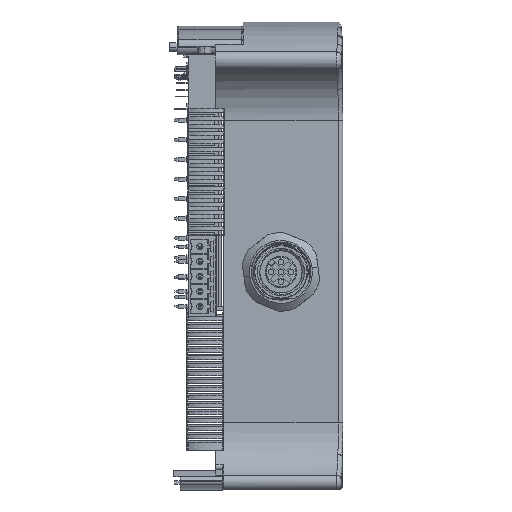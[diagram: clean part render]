
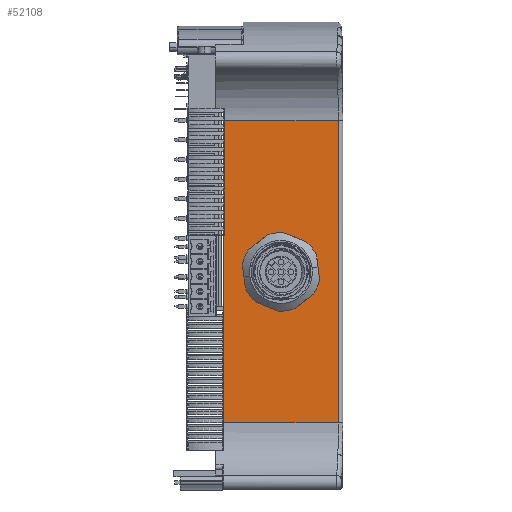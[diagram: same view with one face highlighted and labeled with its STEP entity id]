
A CAD part, front view. The second image highlights one B-rep face of the part: STEP entity #52108.
In plain terms, the highlighted planar face has unit normal (0, -1, 0) as drawn and (1, 0, 0) by its records, which use the part's own axes.
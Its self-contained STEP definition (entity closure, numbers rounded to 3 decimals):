
#693 = CARTESIAN_POINT ( 'NONE',  ( 57.742, -37.851, 30.3 ) ) ;
#2157 = EDGE_LOOP ( 'NONE', ( #10031, #114284, #85239, #84730 ) ) ;
#2716 = VERTEX_POINT ( 'NONE', #91011 ) ;
#10031 = ORIENTED_EDGE ( 'NONE', *, *, #28672, .T. ) ;
#10058 = VERTEX_POINT ( 'NONE', #86589 ) ;
#12184 = VECTOR ( 'NONE', #57859, 1000. ) ;
#14733 = CARTESIAN_POINT ( 'NONE',  ( 57.742, -35.958, 15.75 ) ) ;
#17413 = CARTESIAN_POINT ( 'NONE',  ( 57.742, -42.816, 12.36 ) ) ;
#20558 = EDGE_CURVE ( 'NONE', #37071, #176517, #90889, .T. ) ;
#22767 = CARTESIAN_POINT ( 'NONE',  ( 57.742, -29.1, 12.36 ) ) ;
#23895 = VERTEX_POINT ( 'NONE', #62004 ) ;
#24033 = CIRCLE ( 'NONE', #90030, 7.65 ) ;
#25987 = DIRECTION ( 'NONE',  ( 1., 0., 0. ) ) ;
#27522 = EDGE_CURVE ( 'NONE', #180456, #10058, #79007, .T. ) ;
#28672 = EDGE_CURVE ( 'NONE', #23895, #88716, #103731, .T. ) ;
#29346 = PLANE ( 'NONE',  #163253 ) ;
#31859 = ORIENTED_EDGE ( 'NONE', *, *, #58788, .F. ) ;
#35038 = DIRECTION ( 'NONE',  ( 1., 0., 0. ) ) ;
#35131 = DIRECTION ( 'NONE',  ( 0., 0., -1. ) ) ;
#37071 = VERTEX_POINT ( 'NONE', #92837 ) ;
#42789 = AXIS2_PLACEMENT_3D ( 'NONE', #45460, #145270, #87867 ) ;
#45460 = CARTESIAN_POINT ( 'NONE',  ( 57.742, -35.958, 15.75 ) ) ;
#46383 = LINE ( 'NONE', #161236, #69309 ) ;
#47012 = CARTESIAN_POINT ( 'NONE',  ( 57.742, 2.47, 1.2 ) ) ;
#47444 = CARTESIAN_POINT ( 'NONE',  ( 57.742, -29.1, 19.14 ) ) ;
#49213 = ORIENTED_EDGE ( 'NONE', *, *, #27522, .F. ) ;
#50945 = EDGE_CURVE ( 'NONE', #23895, #2716, #118561, .T. ) ;
#52108 = ADVANCED_FACE ( 'NONE', ( #59331, #132742 ), #29346, .F. ) ;
#56604 = LINE ( 'NONE', #68913, #58949 ) ;
#57146 = DIRECTION ( 'NONE',  ( -1., 0., 0. ) ) ;
#57859 = DIRECTION ( 'NONE',  ( 0., 1., 0. ) ) ;
#58788 = EDGE_CURVE ( 'NONE', #10058, #106278, #175976, .T. ) ;
#58949 = VECTOR ( 'NONE', #139533, 1000. ) ;
#59256 = CARTESIAN_POINT ( 'NONE',  ( 57.742, -42.816, 19.14 ) ) ;
#59331 = FACE_BOUND ( 'NONE', #87462, .T. ) ;
#61610 = EDGE_CURVE ( 'NONE', #94513, #88716, #69242, .T. ) ;
#62004 = CARTESIAN_POINT ( 'NONE',  ( 57.742, 2.47, 1.2 ) ) ;
#64161 = DIRECTION ( 'NONE',  ( 0., 0., 1. ) ) ;
#67288 = VECTOR ( 'NONE', #64161, 1000. ) ;
#68913 = CARTESIAN_POINT ( 'NONE',  ( 57.742, -29.1, 12.36 ) ) ;
#69242 = LINE ( 'NONE', #693, #12184 ) ;
#69309 = VECTOR ( 'NONE', #35131, 1000. ) ;
#70394 = CARTESIAN_POINT ( 'NONE',  ( 57.742, 2.47, 32.5 ) ) ;
#76180 = DIRECTION ( 'NONE',  ( 0., 0., -1. ) ) ;
#79007 = CIRCLE ( 'NONE', #81959, 7.65 ) ;
#81959 = AXIS2_PLACEMENT_3D ( 'NONE', #161150, #35038, #160225 ) ;
#84730 = ORIENTED_EDGE ( 'NONE', *, *, #50945, .F. ) ;
#85239 = ORIENTED_EDGE ( 'NONE', *, *, #149551, .T. ) ;
#86589 = CARTESIAN_POINT ( 'NONE',  ( 57.742, -42.816, 19.14 ) ) ;
#87462 = EDGE_LOOP ( 'NONE', ( #105858, #106448, #160405, #31859, #49213 ) ) ;
#87867 = DIRECTION ( 'NONE',  ( 0., 0., -1. ) ) ;
#88716 = VERTEX_POINT ( 'NONE', #133999 ) ;
#90030 = AXIS2_PLACEMENT_3D ( 'NONE', #14733, #25987, #140783 ) ;
#90346 = DIRECTION ( 'NONE',  ( 0., -1., 0. ) ) ;
#90889 = CIRCLE ( 'NONE', #42789, 7.65 ) ;
#91011 = CARTESIAN_POINT ( 'NONE',  ( 57.742, -74.386, 1.2 ) ) ;
#92837 = CARTESIAN_POINT ( 'NONE',  ( 57.742, -35.958, 8.1 ) ) ;
#94513 = VERTEX_POINT ( 'NONE', #149197 ) ;
#103731 = LINE ( 'NONE', #121635, #67288 ) ;
#105858 = ORIENTED_EDGE ( 'NONE', *, *, #134588, .F. ) ;
#106278 = VERTEX_POINT ( 'NONE', #17413 ) ;
#106448 = ORIENTED_EDGE ( 'NONE', *, *, #20558, .F. ) ;
#106998 = EDGE_CURVE ( 'NONE', #106278, #37071, #24033, .T. ) ;
#114284 = ORIENTED_EDGE ( 'NONE', *, *, #61610, .F. ) ;
#118561 = LINE ( 'NONE', #47012, #127195 ) ;
#121635 = CARTESIAN_POINT ( 'NONE',  ( 57.742, 2.47, 32.5 ) ) ;
#127195 = VECTOR ( 'NONE', #90346, 1000. ) ;
#127785 = DIRECTION ( 'NONE',  ( 0., 0., 1. ) ) ;
#132742 = FACE_OUTER_BOUND ( 'NONE', #2157, .T. ) ;
#133999 = CARTESIAN_POINT ( 'NONE',  ( 57.742, 2.47, 30.3 ) ) ;
#134588 = EDGE_CURVE ( 'NONE', #176517, #180456, #56604, .T. ) ;
#139533 = DIRECTION ( 'NONE',  ( 0., 0., 1. ) ) ;
#140783 = DIRECTION ( 'NONE',  ( 0., 0., -1. ) ) ;
#145270 = DIRECTION ( 'NONE',  ( 1., 0., 0. ) ) ;
#149197 = CARTESIAN_POINT ( 'NONE',  ( 57.742, -74.386, 30.3 ) ) ;
#149551 = EDGE_CURVE ( 'NONE', #94513, #2716, #46383, .T. ) ;
#149767 = VECTOR ( 'NONE', #76180, 1000. ) ;
#160225 = DIRECTION ( 'NONE',  ( 0., 0., -1. ) ) ;
#160405 = ORIENTED_EDGE ( 'NONE', *, *, #106998, .F. ) ;
#161150 = CARTESIAN_POINT ( 'NONE',  ( 57.742, -35.958, 15.75 ) ) ;
#161236 = CARTESIAN_POINT ( 'NONE',  ( 57.742, -74.386, 32.5 ) ) ;
#163253 = AXIS2_PLACEMENT_3D ( 'NONE', #70394, #57146, #127785 ) ;
#175976 = LINE ( 'NONE', #59256, #149767 ) ;
#176517 = VERTEX_POINT ( 'NONE', #22767 ) ;
#180456 = VERTEX_POINT ( 'NONE', #47444 ) ;
